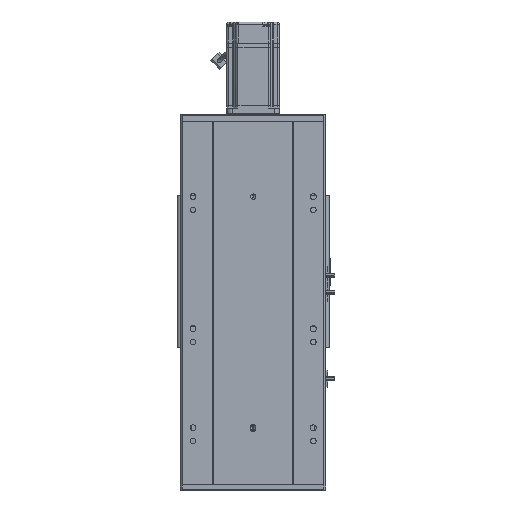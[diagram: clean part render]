
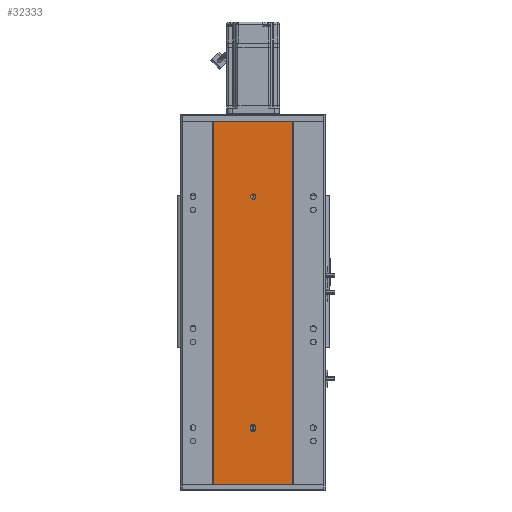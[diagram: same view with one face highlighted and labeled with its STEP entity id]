
A CAD part, front view. The second image highlights one B-rep face of the part: STEP entity #32333.
In plain terms, the highlighted planar face has unit normal (0, -1, 0).
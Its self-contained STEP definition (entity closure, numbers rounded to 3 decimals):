
#276 = LINE ( 'NONE', #10343, #66763 ) ;
#617 = CARTESIAN_POINT ( 'NONE',  ( 60., 0., 550. ) ) ;
#2865 = EDGE_CURVE ( 'NONE', #54499, #9053, #56494, .T. ) ;
#3379 = CARTESIAN_POINT ( 'NONE',  ( -60., 0., 0. ) ) ;
#4192 = DIRECTION ( 'NONE',  ( 0., 1., 0. ) ) ;
#6563 = DIRECTION ( 'NONE',  ( 1., 0., 0. ) ) ;
#6895 = VERTEX_POINT ( 'NONE', #62496 ) ;
#9053 = VERTEX_POINT ( 'NONE', #11483 ) ;
#9588 = AXIS2_PLACEMENT_3D ( 'NONE', #30527, #56967, #56519 ) ;
#9950 = LINE ( 'NONE', #617, #51334 ) ;
#9966 = EDGE_LOOP ( 'NONE', ( #50391, #30440, #54334, #53436 ) ) ;
#10343 = CARTESIAN_POINT ( 'NONE',  ( -60., 0., 550. ) ) ;
#11451 = VECTOR ( 'NONE', #48271, 1000. ) ;
#11483 = CARTESIAN_POINT ( 'NONE',  ( -4., 0., 84.5 ) ) ;
#11734 = DIRECTION ( 'NONE',  ( 0., -1., 0. ) ) ;
#12865 = CARTESIAN_POINT ( 'NONE',  ( -60., 0., 0. ) ) ;
#13350 = FACE_BOUND ( 'NONE', #23599, .T. ) ;
#14662 = ORIENTED_EDGE ( 'NONE', *, *, #54829, .F. ) ;
#15195 = VECTOR ( 'NONE', #42782, 1000. ) ;
#15486 = AXIS2_PLACEMENT_3D ( 'NONE', #30764, #4192, #40522 ) ;
#15588 = DIRECTION ( 'NONE',  ( 1., 0., 0. ) ) ;
#15762 = VERTEX_POINT ( 'NONE', #54162 ) ;
#16513 = CARTESIAN_POINT ( 'NONE',  ( 0., 0., 87.5 ) ) ;
#16777 = VERTEX_POINT ( 'NONE', #45002 ) ;
#17811 = CIRCLE ( 'NONE', #38952, 4. ) ;
#18271 = CARTESIAN_POINT ( 'NONE',  ( 4., 0., 87.5 ) ) ;
#18435 = EDGE_CURVE ( 'NONE', #26422, #51406, #9950, .T. ) ;
#19292 = ORIENTED_EDGE ( 'NONE', *, *, #53808, .F. ) ;
#19390 = ORIENTED_EDGE ( 'NONE', *, *, #45862, .F. ) ;
#20359 = LINE ( 'NONE', #38502, #11451 ) ;
#20952 = AXIS2_PLACEMENT_3D ( 'NONE', #16513, #11734, #63079 ) ;
#22684 = ORIENTED_EDGE ( 'NONE', *, *, #27936, .F. ) ;
#23599 = EDGE_LOOP ( 'NONE', ( #19390, #27780, #22684, #54527, #44022 ) ) ;
#24008 = DIRECTION ( 'NONE',  ( 0., 0., -1. ) ) ;
#25707 = EDGE_CURVE ( 'NONE', #46863, #30278, #20359, .T. ) ;
#26422 = VERTEX_POINT ( 'NONE', #46097 ) ;
#27269 = EDGE_CURVE ( 'NONE', #53469, #54499, #49383, .T. ) ;
#27602 = DIRECTION ( 'NONE',  ( 0., 0., -1. ) ) ;
#27780 = ORIENTED_EDGE ( 'NONE', *, *, #43015, .F. ) ;
#27936 = EDGE_CURVE ( 'NONE', #9053, #6895, #53332, .T. ) ;
#30278 = VERTEX_POINT ( 'NONE', #12865 ) ;
#30440 = ORIENTED_EDGE ( 'NONE', *, *, #18435, .F. ) ;
#30527 = CARTESIAN_POINT ( 'NONE',  ( 0., 0., 84.5 ) ) ;
#30764 = CARTESIAN_POINT ( 'NONE',  ( -60., 0., 550. ) ) ;
#32333 = ADVANCED_FACE ( 'NONE', ( #48991, #13350, #55452 ), #35305, .F. ) ;
#32405 = EDGE_CURVE ( 'NONE', #46863, #26422, #276, .T. ) ;
#32942 = DIRECTION ( 'NONE',  ( 0., -1., 0. ) ) ;
#33391 = DIRECTION ( 'NONE',  ( 0., 0., -1. ) ) ;
#33624 = CARTESIAN_POINT ( 'NONE',  ( 0., 0., 436. ) ) ;
#33763 = AXIS2_PLACEMENT_3D ( 'NONE', #43050, #48252, #27602 ) ;
#34170 = CARTESIAN_POINT ( 'NONE',  ( 0., 0., 84.5 ) ) ;
#34718 = CIRCLE ( 'NONE', #33763, 4. ) ;
#35305 = PLANE ( 'NONE',  #15486 ) ;
#37357 = DIRECTION ( 'NONE',  ( 0., 0., 1. ) ) ;
#37525 = EDGE_LOOP ( 'NONE', ( #19292, #14662 ) ) ;
#37528 = CARTESIAN_POINT ( 'NONE',  ( -4., 0., 84.5 ) ) ;
#38502 = CARTESIAN_POINT ( 'NONE',  ( -60., 0., 550. ) ) ;
#38952 = AXIS2_PLACEMENT_3D ( 'NONE', #33624, #32942, #33391 ) ;
#40522 = DIRECTION ( 'NONE',  ( 0., 0., 1. ) ) ;
#42782 = DIRECTION ( 'NONE',  ( 0., 0., -1. ) ) ;
#43015 = EDGE_CURVE ( 'NONE', #6895, #45556, #66793, .T. ) ;
#43050 = CARTESIAN_POINT ( 'NONE',  ( 0., 0., 436. ) ) ;
#43786 = EDGE_CURVE ( 'NONE', #30278, #51406, #63480, .T. ) ;
#44022 = ORIENTED_EDGE ( 'NONE', *, *, #27269, .F. ) ;
#45002 = CARTESIAN_POINT ( 'NONE',  ( 0., 0., 432. ) ) ;
#45556 = VERTEX_POINT ( 'NONE', #60660 ) ;
#45862 = EDGE_CURVE ( 'NONE', #45556, #53469, #63030, .T. ) ;
#46097 = CARTESIAN_POINT ( 'NONE',  ( 60., 0., 550. ) ) ;
#46863 = VERTEX_POINT ( 'NONE', #62961 ) ;
#47462 = CARTESIAN_POINT ( 'NONE',  ( 60., 0., 0. ) ) ;
#48252 = DIRECTION ( 'NONE',  ( 0., -1., 0. ) ) ;
#48271 = DIRECTION ( 'NONE',  ( 0., 0., -1. ) ) ;
#48991 = FACE_BOUND ( 'NONE', #37525, .T. ) ;
#49383 = CIRCLE ( 'NONE', #20952, 4. ) ;
#50391 = ORIENTED_EDGE ( 'NONE', *, *, #43786, .T. ) ;
#51334 = VECTOR ( 'NONE', #58183, 1000. ) ;
#51406 = VERTEX_POINT ( 'NONE', #47462 ) ;
#53332 = CIRCLE ( 'NONE', #9588, 4. ) ;
#53436 = ORIENTED_EDGE ( 'NONE', *, *, #25707, .T. ) ;
#53469 = VERTEX_POINT ( 'NONE', #18271 ) ;
#53805 = VECTOR ( 'NONE', #6563, 1000. ) ;
#53808 = EDGE_CURVE ( 'NONE', #16777, #15762, #17811, .T. ) ;
#54162 = CARTESIAN_POINT ( 'NONE',  ( 0., 0., 440. ) ) ;
#54334 = ORIENTED_EDGE ( 'NONE', *, *, #32405, .F. ) ;
#54499 = VERTEX_POINT ( 'NONE', #65577 ) ;
#54527 = ORIENTED_EDGE ( 'NONE', *, *, #2865, .F. ) ;
#54829 = EDGE_CURVE ( 'NONE', #15762, #16777, #34718, .T. ) ;
#54996 = DIRECTION ( 'NONE',  ( 0., -1., 0. ) ) ;
#55452 = FACE_OUTER_BOUND ( 'NONE', #9966, .T. ) ;
#56494 = LINE ( 'NONE', #37528, #15195 ) ;
#56519 = DIRECTION ( 'NONE',  ( 0., 0., -1. ) ) ;
#56967 = DIRECTION ( 'NONE',  ( 0., -1., 0. ) ) ;
#57277 = CARTESIAN_POINT ( 'NONE',  ( 4., 0., 84.5 ) ) ;
#58183 = DIRECTION ( 'NONE',  ( 0., 0., -1. ) ) ;
#58818 = AXIS2_PLACEMENT_3D ( 'NONE', #34170, #54996, #24008 ) ;
#59810 = VECTOR ( 'NONE', #37357, 1000. ) ;
#60660 = CARTESIAN_POINT ( 'NONE',  ( 4., 0., 84.5 ) ) ;
#62496 = CARTESIAN_POINT ( 'NONE',  ( 0., 0., 80.5 ) ) ;
#62961 = CARTESIAN_POINT ( 'NONE',  ( -60., 0., 550. ) ) ;
#63030 = LINE ( 'NONE', #57277, #59810 ) ;
#63079 = DIRECTION ( 'NONE',  ( 0., 0., -1. ) ) ;
#63480 = LINE ( 'NONE', #3379, #53805 ) ;
#65577 = CARTESIAN_POINT ( 'NONE',  ( -4., 0., 87.5 ) ) ;
#66763 = VECTOR ( 'NONE', #15588, 1000. ) ;
#66793 = CIRCLE ( 'NONE', #58818, 4. ) ;
